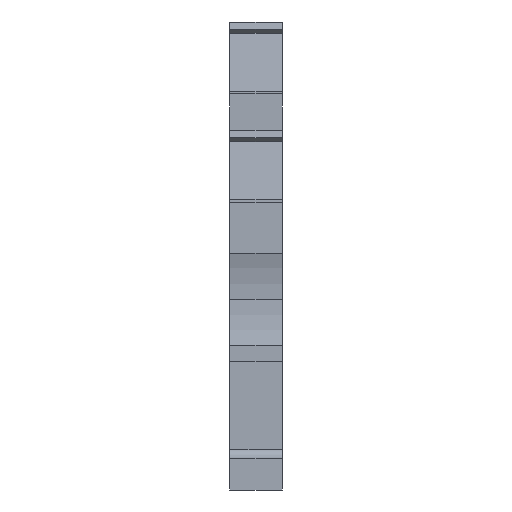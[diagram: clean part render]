
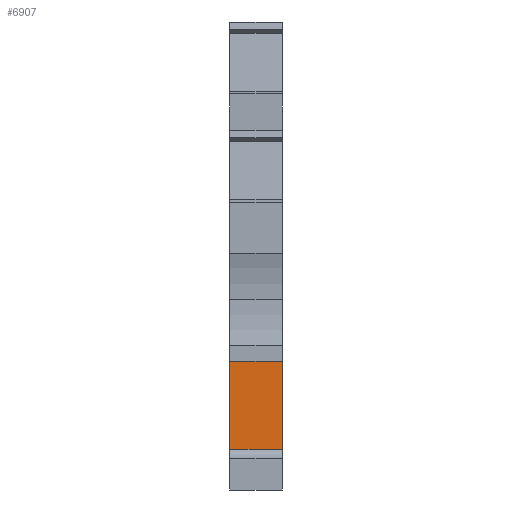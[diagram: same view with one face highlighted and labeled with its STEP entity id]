
A CAD part, front view. The second image highlights one B-rep face of the part: STEP entity #6907.
In plain terms, the highlighted planar face has unit normal (0, -1, 0).
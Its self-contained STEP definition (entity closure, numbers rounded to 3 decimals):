
#1238=CARTESIAN_POINT('',(0.,3.6,4.));
#1239=VERTEX_POINT('',#1238);
#1246=CARTESIAN_POINT('',(0.,3.6,12.6));
#1247=VERTEX_POINT('',#1246);
#1248=CARTESIAN_POINT('',(0.,3.6,4.));
#1249=DIRECTION('',(0.,0.,1.));
#1250=VECTOR('',#1249,8.6);
#1251=LINE('',#1248,#1250);
#1252=EDGE_CURVE('',#1239,#1247,#1251,.T.);
#2864=CARTESIAN_POINT('',(1.,3.6,4.));
#2865=VERTEX_POINT('',#2864);
#2872=CARTESIAN_POINT('',(1.,3.6,4.));
#2873=DIRECTION('',(-1.,0.,0.));
#2874=VECTOR('',#2873,1.);
#2875=LINE('',#2872,#2874);
#2876=EDGE_CURVE('',#2865,#1239,#2875,.T.);
#2887=CARTESIAN_POINT('',(1.,3.6,1.5));
#2888=VERTEX_POINT('',#2887);
#2889=CARTESIAN_POINT('',(1.,3.6,1.5));
#2890=DIRECTION('',(-0.,0.,1.));
#2891=VECTOR('',#2890,2.5);
#2892=LINE('',#2889,#2891);
#2893=EDGE_CURVE('',#2888,#2865,#2892,.T.);
#3546=CARTESIAN_POINT('',(5.15,3.6,12.6));
#3547=VERTEX_POINT('',#3546);
#3554=CARTESIAN_POINT('',(5.15,3.6,1.5));
#3555=VERTEX_POINT('',#3554);
#3556=CARTESIAN_POINT('',(5.15,3.6,1.5));
#3557=DIRECTION('',(0.,0.,1.));
#3558=VECTOR('',#3557,11.1);
#3559=LINE('',#3556,#3558);
#3560=EDGE_CURVE('',#3555,#3547,#3559,.T.);
#6880=CARTESIAN_POINT('',(5.15,3.6,1.5));
#6881=DIRECTION('',(-1.,0.,0.));
#6882=VECTOR('',#6881,4.15);
#6883=LINE('',#6880,#6882);
#6884=EDGE_CURVE('',#3555,#2888,#6883,.T.);
#6889=CARTESIAN_POINT('',(5.15,3.6,2.5));
#6890=DIRECTION('',(0.,1.,-0.));
#6891=DIRECTION('',(0.,-0.,-1.));
#6892=AXIS2_PLACEMENT_3D('',#6889,#6890,#6891);
#6893=PLANE('',#6892);
#6894=CARTESIAN_POINT('',(5.15,3.6,12.6));
#6895=DIRECTION('',(-1.,0.,0.));
#6896=VECTOR('',#6895,5.15);
#6897=LINE('',#6894,#6896);
#6898=EDGE_CURVE('',#3547,#1247,#6897,.T.);
#6899=ORIENTED_EDGE('',*,*,#6898,.T.);
#6900=ORIENTED_EDGE('',*,*,#1252,.F.);
#6901=ORIENTED_EDGE('',*,*,#2876,.F.);
#6902=ORIENTED_EDGE('',*,*,#2893,.F.);
#6903=ORIENTED_EDGE('',*,*,#6884,.F.);
#6904=ORIENTED_EDGE('',*,*,#3560,.T.);
#6905=EDGE_LOOP('',(#6899,#6900,#6901,#6902,#6903,#6904));
#6906=FACE_BOUND('',#6905,.T.);
#6907=ADVANCED_FACE('',(#6906),#6893,.F.);
